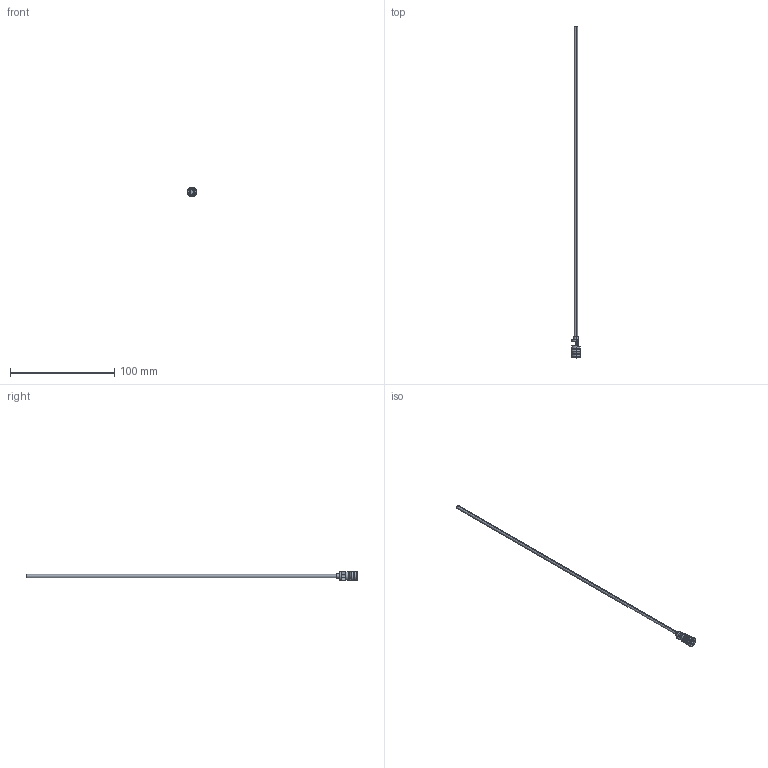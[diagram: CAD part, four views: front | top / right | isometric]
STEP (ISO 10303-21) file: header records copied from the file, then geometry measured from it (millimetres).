
FILE_DESCRIPTION (( 'STEP AP203' ), '1' );
FILE_NAME ('RF-8Fx300-3.STEP', '2015-11-25T08:50:03', ( 'Balzi' ), ( '' ), 'SwSTEP 2.0', 'SolidWorks 2015', '' );
FILE_SCHEMA (( 'CONFIG_CONTROL_DESIGN' ));
Length unit declared in the file: millimetre
Products named in the file (1): RF-8Fx300-3
Bounding box: 9 x 318 x 9 mm (x, y, z)
Volume: 1292.5 mm3; surface area: 6004.3 mm2
Topology: 1 solids, 1 shells, 77 faces, 176 edges, 108 vertices
Faces by surface type: cylinder 28, plane 25, torus 12, cone 12
Entity records: 2268 total; most frequent: DIRECTION 419, CARTESIAN_POINT 381, ORIENTED_EDGE 352, EDGE_CURVE 176, AXIS2_PLACEMENT_3D 170, VERTEX_POINT 108, CIRCLE 92, EDGE_LOOP 86
